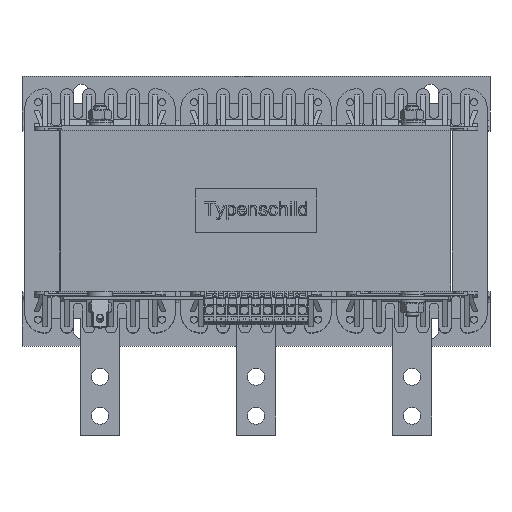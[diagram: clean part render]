
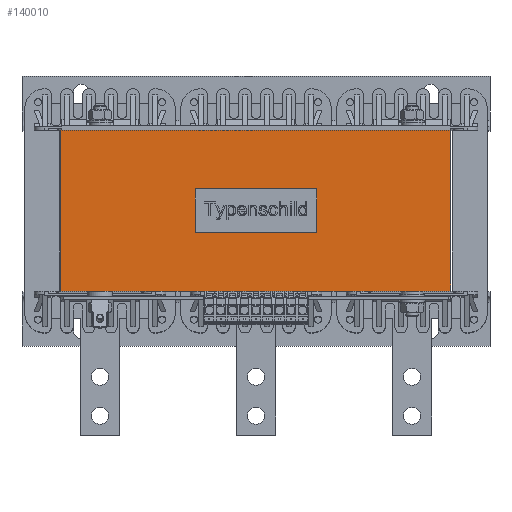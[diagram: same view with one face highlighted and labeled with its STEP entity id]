
A CAD part, top view. The second image highlights one B-rep face of the part: STEP entity #140010.
In plain terms, the highlighted planar face has unit normal (0, 0, 1).
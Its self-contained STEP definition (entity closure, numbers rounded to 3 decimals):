
#3080=FACE_BOUND('',#15041,.T.);
#7666=FACE_OUTER_BOUND('',#15040,.T.);
#15040=EDGE_LOOP('',(#108081,#108082,#108083,#108084));
#15041=EDGE_LOOP('',(#108085,#108086,#108087,#108088));
#30513=LINE('',#220037,#45428);
#30516=LINE('',#220042,#45431);
#30518=LINE('',#220046,#45433);
#30519=LINE('',#220048,#45434);
#31494=LINE('',#224250,#46409);
#31495=LINE('',#224252,#46410);
#31496=LINE('',#224254,#46411);
#31497=LINE('',#224255,#46412);
#45428=VECTOR('',#172975,10.);
#45431=VECTOR('',#172980,10.);
#45433=VECTOR('',#172984,10.);
#45434=VECTOR('',#172987,10.);
#46409=VECTOR('',#175712,10.);
#46410=VECTOR('',#175713,10.);
#46411=VECTOR('',#175714,10.);
#46412=VECTOR('',#175715,10.);
#58873=VERTEX_POINT('',#220034);
#58874=VERTEX_POINT('',#220036);
#58875=VERTEX_POINT('',#220040);
#58876=VERTEX_POINT('',#220044);
#59780=VERTEX_POINT('',#224248);
#59781=VERTEX_POINT('',#224249);
#59782=VERTEX_POINT('',#224251);
#59783=VERTEX_POINT('',#224253);
#75165=EDGE_CURVE('',#58874,#58873,#30513,.T.);
#75168=EDGE_CURVE('',#58873,#58875,#30516,.T.);
#75170=EDGE_CURVE('',#58875,#58876,#30518,.T.);
#75171=EDGE_CURVE('',#58876,#58874,#30519,.T.);
#76615=EDGE_CURVE('',#59780,#59781,#31494,.T.);
#76616=EDGE_CURVE('',#59781,#59782,#31495,.T.);
#76617=EDGE_CURVE('',#59782,#59783,#31496,.T.);
#76618=EDGE_CURVE('',#59783,#59780,#31497,.T.);
#108081=ORIENTED_EDGE('',*,*,#76615,.T.);
#108082=ORIENTED_EDGE('',*,*,#76616,.T.);
#108083=ORIENTED_EDGE('',*,*,#76617,.T.);
#108084=ORIENTED_EDGE('',*,*,#76618,.T.);
#108085=ORIENTED_EDGE('',*,*,#75165,.T.);
#108086=ORIENTED_EDGE('',*,*,#75168,.T.);
#108087=ORIENTED_EDGE('',*,*,#75170,.T.);
#108088=ORIENTED_EDGE('',*,*,#75171,.T.);
#126441=PLANE('',#149355);
#140010=ADVANCED_FACE('',(#7666,#3080),#126441,.T.);
#149355=AXIS2_PLACEMENT_3D('',#224247,#175710,#175711);
#172975=DIRECTION('',(0.,1.,0.));
#172980=DIRECTION('',(1.,0.,0.));
#172984=DIRECTION('',(0.,-1.,0.));
#172987=DIRECTION('',(-1.,0.,0.));
#175710=DIRECTION('center_axis',(0.,0.,1.));
#175711=DIRECTION('ref_axis',(-1.,0.,0.));
#175712=DIRECTION('',(1.,0.,0.));
#175713=DIRECTION('',(0.,1.,0.));
#175714=DIRECTION('',(-1.,0.,0.));
#175715=DIRECTION('',(0.,-1.,0.));
#220034=CARTESIAN_POINT('',(-39.,14.,125.));
#220036=CARTESIAN_POINT('',(-39.,-14.,125.));
#220037=CARTESIAN_POINT('',(-39.,-7.,125.));
#220040=CARTESIAN_POINT('',(39.,14.,125.));
#220042=CARTESIAN_POINT('',(-82.,14.,125.));
#220044=CARTESIAN_POINT('',(39.,-14.,125.));
#220046=CARTESIAN_POINT('',(39.,7.,125.));
#220048=CARTESIAN_POINT('',(-43.,-14.,125.));
#224247=CARTESIAN_POINT('Origin',(-125.,0.,125.));
#224248=CARTESIAN_POINT('',(-125.,-51.5,125.));
#224249=CARTESIAN_POINT('',(125.,-51.5,125.));
#224250=CARTESIAN_POINT('',(-125.,-51.5,125.));
#224251=CARTESIAN_POINT('',(125.,51.5,125.));
#224252=CARTESIAN_POINT('',(125.,0.,125.));
#224253=CARTESIAN_POINT('',(-125.,51.5,125.));
#224254=CARTESIAN_POINT('',(-125.,51.5,125.));
#224255=CARTESIAN_POINT('',(-125.,0.,125.));
